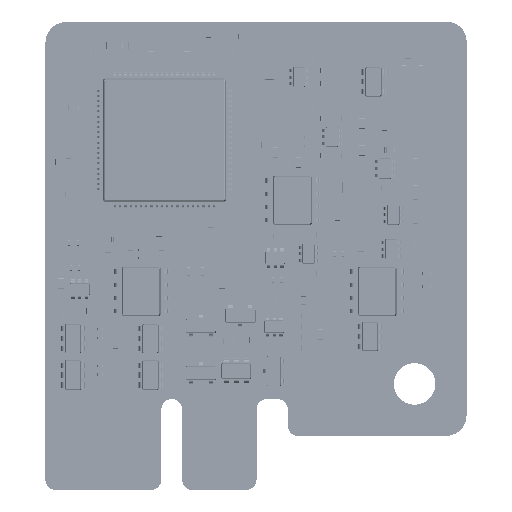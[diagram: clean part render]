
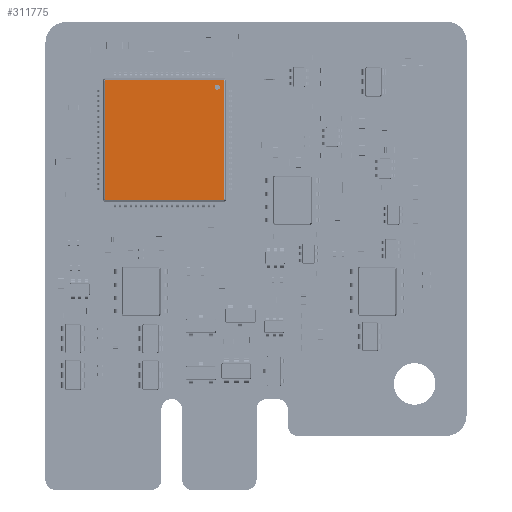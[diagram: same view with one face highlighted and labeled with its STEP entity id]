
A CAD part, top view. The second image highlights one B-rep face of the part: STEP entity #311775.
In plain terms, the highlighted planar face has unit normal (0, 0, 1).
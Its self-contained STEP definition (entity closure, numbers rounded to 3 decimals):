
#409=FACE_BOUND('',#36856,.T.);
#3606=CIRCLE('',#330884,0.25);
#19527=FACE_OUTER_BOUND('',#36855,.T.);
#36855=EDGE_LOOP('',(#210635,#210636,#210637,#210638,#210639,#210640,#210641,
#210642));
#36856=EDGE_LOOP('',(#210643));
#56352=LINE('',#461075,#92368);
#56926=LINE('',#462252,#92942);
#56927=LINE('',#462257,#92943);
#56928=LINE('',#462260,#92944);
#56929=LINE('',#462262,#92945);
#56930=LINE('',#462264,#92946);
#56931=LINE('',#462266,#92947);
#56932=LINE('',#462267,#92948);
#92368=VECTOR('',#363119,1.);
#92942=VECTOR('',#364305,1.);
#92943=VECTOR('',#364312,1.);
#92944=VECTOR('',#364315,1.);
#92945=VECTOR('',#364316,1.);
#92946=VECTOR('',#364317,1.);
#92947=VECTOR('',#364318,1.);
#92948=VECTOR('',#364319,1.);
#128014=VERTEX_POINT('',#461072);
#128015=VERTEX_POINT('',#461074);
#128312=VERTEX_POINT('',#462251);
#128313=VERTEX_POINT('',#462255);
#128314=VERTEX_POINT('',#462259);
#128315=VERTEX_POINT('',#462261);
#128316=VERTEX_POINT('',#462263);
#128317=VERTEX_POINT('',#462265);
#128318=VERTEX_POINT('',#462268);
#159825=EDGE_CURVE('',#128014,#128015,#56352,.T.);
#160404=EDGE_CURVE('',#128015,#128312,#56926,.T.);
#160407=EDGE_CURVE('',#128313,#128014,#56927,.T.);
#160408=EDGE_CURVE('',#128312,#128314,#56928,.T.);
#160409=EDGE_CURVE('',#128315,#128313,#56929,.T.);
#160410=EDGE_CURVE('',#128316,#128315,#56930,.T.);
#160411=EDGE_CURVE('',#128317,#128316,#56931,.T.);
#160412=EDGE_CURVE('',#128314,#128317,#56932,.T.);
#160413=EDGE_CURVE('',#128318,#128318,#3606,.T.);
#210635=ORIENTED_EDGE('',*,*,#160408,.F.);
#210636=ORIENTED_EDGE('',*,*,#160404,.F.);
#210637=ORIENTED_EDGE('',*,*,#159825,.F.);
#210638=ORIENTED_EDGE('',*,*,#160407,.F.);
#210639=ORIENTED_EDGE('',*,*,#160409,.F.);
#210640=ORIENTED_EDGE('',*,*,#160410,.F.);
#210641=ORIENTED_EDGE('',*,*,#160411,.F.);
#210642=ORIENTED_EDGE('',*,*,#160412,.F.);
#210643=ORIENTED_EDGE('',*,*,#160413,.F.);
#295741=PLANE('',#330883);
#311775=ADVANCED_FACE('',(#19527,#409),#295741,.T.);
#330883=AXIS2_PLACEMENT_3D('',#462258,#364313,#364314);
#330884=AXIS2_PLACEMENT_3D('',#462269,#364320,#364321);
#363119=DIRECTION('',(1.,0.,0.));
#364305=DIRECTION('',(0.707,-0.707,0.));
#364312=DIRECTION('',(0.707,0.707,0.));
#364313=DIRECTION('center_axis',(0.,0.,1.));
#364314=DIRECTION('ref_axis',(1.,0.,0.));
#364315=DIRECTION('',(0.,-1.,0.));
#364316=DIRECTION('',(0.,1.,0.));
#364317=DIRECTION('',(-0.707,0.707,0.));
#364318=DIRECTION('',(-1.,0.,0.));
#364319=DIRECTION('',(-0.707,-0.707,0.));
#364320=DIRECTION('center_axis',(0.,0.,1.));
#364321=DIRECTION('ref_axis',(0.,-1.,0.));
#461072=CARTESIAN_POINT('',(-5.702,5.746,1.5));
#461074=CARTESIAN_POINT('',(5.702,5.746,1.5));
#461075=CARTESIAN_POINT('',(-5.702,5.746,1.5));
#462251=CARTESIAN_POINT('',(5.746,5.702,1.5));
#462252=CARTESIAN_POINT('',(5.702,5.746,1.5));
#462255=CARTESIAN_POINT('',(-5.746,5.702,1.5));
#462257=CARTESIAN_POINT('',(-5.746,5.702,1.5));
#462258=CARTESIAN_POINT('Origin',(-5.718,5.787,1.5));
#462259=CARTESIAN_POINT('',(5.746,-5.702,1.5));
#462260=CARTESIAN_POINT('',(5.746,5.702,1.5));
#462261=CARTESIAN_POINT('',(-5.746,-5.702,1.5));
#462262=CARTESIAN_POINT('',(-5.746,-5.702,1.5));
#462263=CARTESIAN_POINT('',(-5.702,-5.746,1.5));
#462264=CARTESIAN_POINT('',(-5.702,-5.746,1.5));
#462265=CARTESIAN_POINT('',(5.702,-5.746,1.5));
#462266=CARTESIAN_POINT('',(5.702,-5.746,1.5));
#462267=CARTESIAN_POINT('',(5.746,-5.702,1.5));
#462268=CARTESIAN_POINT('',(-5.087,5.337,1.5));
#462269=CARTESIAN_POINT('Origin',(-5.087,5.087,1.5));
